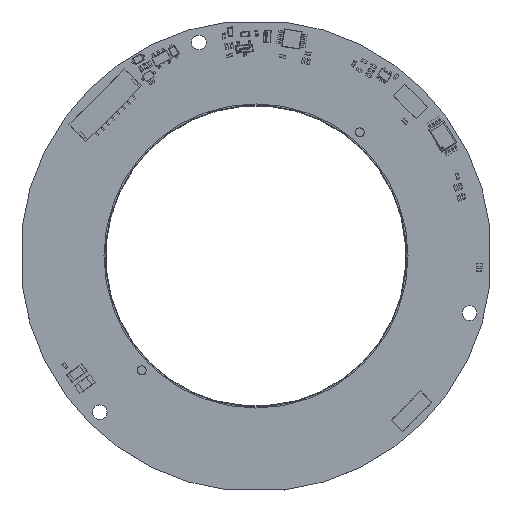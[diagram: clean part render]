
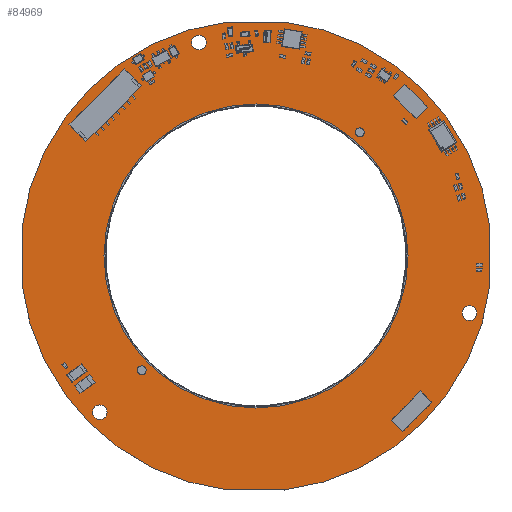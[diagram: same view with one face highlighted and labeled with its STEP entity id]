
A CAD part, top view. The second image highlights one B-rep face of the part: STEP entity #84969.
In plain terms, the highlighted planar face has unit normal (0, 0, 1).
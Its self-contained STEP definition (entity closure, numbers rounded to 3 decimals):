
#23329=LINE('',#349230,#45415);
#23330=LINE('',#349234,#45416);
#23331=LINE('',#349238,#45417);
#23332=LINE('',#349242,#45418);
#45415=VECTOR('',#284741,1.);
#45416=VECTOR('',#284744,1.);
#45417=VECTOR('',#284747,1.);
#45418=VECTOR('',#284750,1.);
#84969=ADVANCED_FACE('',(#93847,#93848,#93849,#93850,#93851,#93852,#93853),
#93389,.F.);
#93389=PLANE('',#229992);
#93847=FACE_BOUND('',#105565,.T.);
#93848=FACE_BOUND('',#105566,.T.);
#93849=FACE_BOUND('',#105567,.T.);
#93850=FACE_BOUND('',#105568,.T.);
#93851=FACE_BOUND('',#105569,.T.);
#93852=FACE_BOUND('',#105570,.T.);
#93853=FACE_BOUND('',#105571,.T.);
#105565=EDGE_LOOP('',(#161160));
#105566=EDGE_LOOP('',(#161161));
#105567=EDGE_LOOP('',(#161162));
#105568=EDGE_LOOP('',(#161163));
#105569=EDGE_LOOP('',(#161164));
#105570=EDGE_LOOP('',(#161165));
#105571=EDGE_LOOP('',(#161166,#161167,#161168,#161169,#161170,#161171,#161172,
#161173));
#161160=ORIENTED_EDGE('',*,*,#208065,.F.);
#161161=ORIENTED_EDGE('',*,*,#208066,.F.);
#161162=ORIENTED_EDGE('',*,*,#208067,.F.);
#161163=ORIENTED_EDGE('',*,*,#208068,.F.);
#161164=ORIENTED_EDGE('',*,*,#208069,.F.);
#161165=ORIENTED_EDGE('',*,*,#208070,.F.);
#161166=ORIENTED_EDGE('',*,*,#208071,.T.);
#161167=ORIENTED_EDGE('',*,*,#208072,.T.);
#161168=ORIENTED_EDGE('',*,*,#208073,.T.);
#161169=ORIENTED_EDGE('',*,*,#208074,.T.);
#161170=ORIENTED_EDGE('',*,*,#208075,.T.);
#161171=ORIENTED_EDGE('',*,*,#208076,.T.);
#161172=ORIENTED_EDGE('',*,*,#208077,.T.);
#161173=ORIENTED_EDGE('',*,*,#208078,.T.);
#180095=VERTEX_POINT('',#349216);
#180096=VERTEX_POINT('',#349218);
#180097=VERTEX_POINT('',#349220);
#180098=VERTEX_POINT('',#349222);
#180099=VERTEX_POINT('',#349224);
#180100=VERTEX_POINT('',#349226);
#180101=VERTEX_POINT('',#349228);
#180102=VERTEX_POINT('',#349229);
#180103=VERTEX_POINT('',#349231);
#180104=VERTEX_POINT('',#349233);
#180105=VERTEX_POINT('',#349235);
#180106=VERTEX_POINT('',#349237);
#180107=VERTEX_POINT('',#349239);
#180108=VERTEX_POINT('',#349241);
#208065=EDGE_CURVE('',#180095,#180095,#213523,.T.);
#208066=EDGE_CURVE('',#180096,#180096,#213524,.T.);
#208067=EDGE_CURVE('',#180097,#180097,#213525,.T.);
#208068=EDGE_CURVE('',#180098,#180098,#213526,.T.);
#208069=EDGE_CURVE('',#180099,#180099,#213527,.T.);
#208070=EDGE_CURVE('',#180100,#180100,#213528,.T.);
#208071=EDGE_CURVE('',#180101,#180102,#213529,.T.);
#208072=EDGE_CURVE('',#180102,#180103,#23329,.T.);
#208073=EDGE_CURVE('',#180103,#180104,#213530,.T.);
#208074=EDGE_CURVE('',#180104,#180105,#23330,.T.);
#208075=EDGE_CURVE('',#180105,#180106,#213531,.T.);
#208076=EDGE_CURVE('',#180106,#180107,#23331,.T.);
#208077=EDGE_CURVE('',#180107,#180108,#213532,.T.);
#208078=EDGE_CURVE('',#180108,#180101,#23332,.T.);
#213523=CIRCLE('',#229982,0.75);
#213524=CIRCLE('',#229983,1.25);
#213525=CIRCLE('',#229984,1.25);
#213526=CIRCLE('',#229985,25.8);
#213527=CIRCLE('',#229986,0.75);
#213528=CIRCLE('',#229987,1.25);
#213529=CIRCLE('',#229988,39.999);
#213530=CIRCLE('',#229989,39.999);
#213531=CIRCLE('',#229990,40.001);
#213532=CIRCLE('',#229991,40.001);
#229982=AXIS2_PLACEMENT_3D('',#349215,#284727,#284728);
#229983=AXIS2_PLACEMENT_3D('',#349217,#284729,#284730);
#229984=AXIS2_PLACEMENT_3D('',#349219,#284731,#284732);
#229985=AXIS2_PLACEMENT_3D('',#349221,#284733,#284734);
#229986=AXIS2_PLACEMENT_3D('',#349223,#284735,#284736);
#229987=AXIS2_PLACEMENT_3D('',#349225,#284737,#284738);
#229988=AXIS2_PLACEMENT_3D('',#349227,#284739,#284740);
#229989=AXIS2_PLACEMENT_3D('',#349232,#284742,#284743);
#229990=AXIS2_PLACEMENT_3D('',#349236,#284745,#284746);
#229991=AXIS2_PLACEMENT_3D('',#349240,#284748,#284749);
#229992=AXIS2_PLACEMENT_3D('',#349243,#284751,#284752);
#284727=DIRECTION('',(0.,0.,1.));
#284728=DIRECTION('',(-1.,0.,0.));
#284729=DIRECTION('',(0.,0.,1.));
#284730=DIRECTION('',(-1.,0.,0.));
#284731=DIRECTION('',(0.,0.,1.));
#284732=DIRECTION('',(-1.,0.,0.));
#284733=DIRECTION('',(0.,0.,1.));
#284734=DIRECTION('',(-1.,0.,0.));
#284735=DIRECTION('',(0.,0.,1.));
#284736=DIRECTION('',(-1.,0.,0.));
#284737=DIRECTION('',(0.,0.,1.));
#284738=DIRECTION('',(-1.,0.,0.));
#284739=DIRECTION('',(0.,0.,1.));
#284740=DIRECTION('',(-1.,0.,0.));
#284741=DIRECTION('',(1.,0.,0.));
#284742=DIRECTION('',(0.,0.,1.));
#284743=DIRECTION('',(-1.,0.,0.));
#284744=DIRECTION('',(0.,1.,0.));
#284745=DIRECTION('',(0.,0.,1.));
#284746=DIRECTION('',(-1.,0.,0.));
#284747=DIRECTION('',(-1.,0.,0.));
#284748=DIRECTION('',(0.,0.,1.));
#284749=DIRECTION('',(-1.,0.,0.));
#284750=DIRECTION('',(0.,-1.,0.));
#284751=DIRECTION('',(0.,0.,-1.));
#284752=DIRECTION('',(-1.,0.,0.));
#349215=CARTESIAN_POINT('',(17.612,20.989,0.));
#349216=CARTESIAN_POINT('',(16.862,20.989,0.));
#349217=CARTESIAN_POINT('',(-9.706,36.222,0.));
#349218=CARTESIAN_POINT('',(-10.956,36.222,0.));
#349219=CARTESIAN_POINT('',(36.222,-9.706,0.));
#349220=CARTESIAN_POINT('',(34.972,-9.706,0.));
#349221=CARTESIAN_POINT('',(0.,0.,0.));
#349222=CARTESIAN_POINT('',(-25.8,0.,0.));
#349223=CARTESIAN_POINT('',(-19.375,-19.375,0.));
#349224=CARTESIAN_POINT('',(-20.125,-19.375,0.));
#349225=CARTESIAN_POINT('',(-26.517,-26.517,0.));
#349226=CARTESIAN_POINT('',(-27.767,-26.517,0.));
#349227=CARTESIAN_POINT('',(-0.001,-0.001,
0.));
#349228=CARTESIAN_POINT('',(-39.7,-4.89,0.));
#349229=CARTESIAN_POINT('',(-4.89,-39.7,0.));
#349230=CARTESIAN_POINT('',(-39.7,-39.7,0.));
#349231=CARTESIAN_POINT('',(4.89,-39.7,0.));
#349232=CARTESIAN_POINT('',(0.001,-0.001,
0.));
#349233=CARTESIAN_POINT('',(39.7,-4.89,0.));
#349234=CARTESIAN_POINT('',(39.7,-4.89,0.));
#349235=CARTESIAN_POINT('',(39.7,4.889,0.));
#349236=CARTESIAN_POINT('',(-0.001,-0.001,0.));
#349237=CARTESIAN_POINT('',(4.89,39.7,0.));
#349238=CARTESIAN_POINT('',(-39.7,39.7,0.));
#349239=CARTESIAN_POINT('',(-4.89,39.7,0.));
#349240=CARTESIAN_POINT('',(0.001,-0.001,0.));
#349241=CARTESIAN_POINT('',(-39.7,4.889,0.));
#349242=CARTESIAN_POINT('',(-39.7,-4.89,0.));
#349243=CARTESIAN_POINT('',(-39.7,-4.89,0.));
